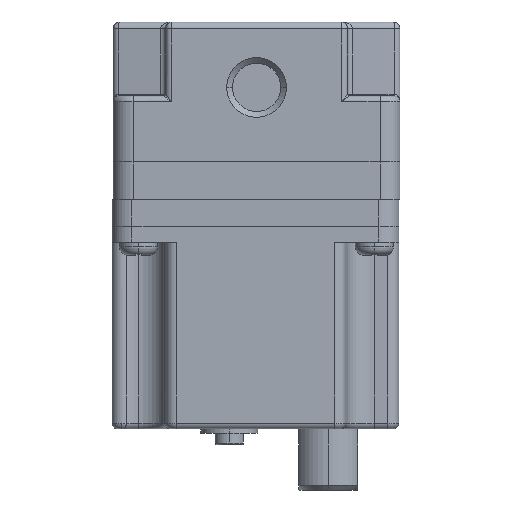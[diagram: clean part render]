
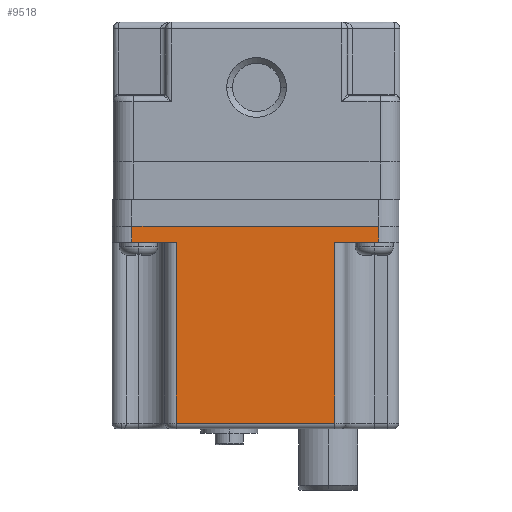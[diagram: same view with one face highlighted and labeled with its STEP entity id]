
A CAD part, front view. The second image highlights one B-rep face of the part: STEP entity #9518.
In plain terms, the highlighted planar face has unit normal (0, -1, 0) as drawn and (-1, 0, 0) by its records, which use the part's own axes.
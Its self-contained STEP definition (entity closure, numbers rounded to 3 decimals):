
#457 = LINE ( 'NONE', #7707, #15299 ) ;
#898 = CARTESIAN_POINT ( 'NONE',  ( -25.2, 13.9, 7.5 ) ) ;
#1065 = CARTESIAN_POINT ( 'NONE',  ( -25.2, -21.7, 40.3 ) ) ;
#1500 = VERTEX_POINT ( 'NONE', #13059 ) ;
#1590 = DIRECTION ( 'NONE',  ( 0., -1., 0. ) ) ;
#1735 = ORIENTED_EDGE ( 'NONE', *, *, #16056, .T. ) ;
#1825 = EDGE_CURVE ( 'NONE', #19584, #8675, #14709, .T. ) ;
#2126 = DIRECTION ( 'NONE',  ( 0., 0., -1. ) ) ;
#2132 = LINE ( 'NONE', #20192, #23224 ) ;
#2872 = VECTOR ( 'NONE', #14466, 1000. ) ;
#3025 = EDGE_CURVE ( 'NONE', #10313, #1500, #21834, .T. ) ;
#3029 = VECTOR ( 'NONE', #19617, 1000. ) ;
#3167 = LINE ( 'NONE', #1065, #3029 ) ;
#3413 = CARTESIAN_POINT ( 'NONE',  ( -25.2, 21.7, 7.5 ) ) ;
#3781 = CARTESIAN_POINT ( 'NONE',  ( -25.2, 21.7, 4.7 ) ) ;
#5024 = ORIENTED_EDGE ( 'NONE', *, *, #11008, .T. ) ;
#5410 = VERTEX_POINT ( 'NONE', #898 ) ;
#5618 = LINE ( 'NONE', #3413, #14063 ) ;
#6023 = VERTEX_POINT ( 'NONE', #21129 ) ;
#7024 = VECTOR ( 'NONE', #17479, 1000. ) ;
#7060 = LINE ( 'NONE', #15973, #11896 ) ;
#7310 = DIRECTION ( 'NONE',  ( 1., 0., 0. ) ) ;
#7483 = CARTESIAN_POINT ( 'NONE',  ( -25.2, 21.7, 7.5 ) ) ;
#7669 = PLANE ( 'NONE',  #10319 ) ;
#7707 = CARTESIAN_POINT ( 'NONE',  ( -25.2, -13.9, 40.3 ) ) ;
#8302 = VECTOR ( 'NONE', #1590, 1000. ) ;
#8397 = EDGE_CURVE ( 'NONE', #8675, #1500, #3167, .T. ) ;
#8675 = VERTEX_POINT ( 'NONE', #22842 ) ;
#9058 = VERTEX_POINT ( 'NONE', #10289 ) ;
#9106 = CARTESIAN_POINT ( 'NONE',  ( -25.2, 21.7, 7.5 ) ) ;
#9385 = EDGE_CURVE ( 'NONE', #9058, #6023, #7060, .T. ) ;
#9423 = DIRECTION ( 'NONE',  ( 0., 0., 1. ) ) ;
#9518 = ADVANCED_FACE ( 'NONE', ( #13136 ), #7669, .F. ) ;
#10289 = CARTESIAN_POINT ( 'NONE',  ( -25.2, -13.9, 39.3 ) ) ;
#10313 = VERTEX_POINT ( 'NONE', #23004 ) ;
#10319 = AXIS2_PLACEMENT_3D ( 'NONE', #18377, #7310, #2126 ) ;
#10970 = DIRECTION ( 'NONE',  ( 0., 0., -1. ) ) ;
#11008 = EDGE_CURVE ( 'NONE', #6023, #5410, #13953, .T. ) ;
#11896 = VECTOR ( 'NONE', #21415, 1000. ) ;
#12739 = ORIENTED_EDGE ( 'NONE', *, *, #9385, .T. ) ;
#13059 = CARTESIAN_POINT ( 'NONE',  ( -25.2, -21.7, 4.7 ) ) ;
#13136 = FACE_OUTER_BOUND ( 'NONE', #19952, .T. ) ;
#13627 = EDGE_CURVE ( 'NONE', #19584, #9058, #457, .T. ) ;
#13953 = LINE ( 'NONE', #16148, #7024 ) ;
#14063 = VECTOR ( 'NONE', #20102, 1000. ) ;
#14466 = DIRECTION ( 'NONE',  ( 0., -1., 0. ) ) ;
#14709 = LINE ( 'NONE', #9106, #2872 ) ;
#15299 = VECTOR ( 'NONE', #9423, 1000. ) ;
#15973 = CARTESIAN_POINT ( 'NONE',  ( -25.2, 15.9, 39.3 ) ) ;
#16056 = EDGE_CURVE ( 'NONE', #23981, #10313, #2132, .T. ) ;
#16148 = CARTESIAN_POINT ( 'NONE',  ( -25.2, 13.9, 40.3 ) ) ;
#16172 = ORIENTED_EDGE ( 'NONE', *, *, #13627, .T. ) ;
#16180 = ORIENTED_EDGE ( 'NONE', *, *, #18587, .F. ) ;
#16409 = ORIENTED_EDGE ( 'NONE', *, *, #3025, .T. ) ;
#17479 = DIRECTION ( 'NONE',  ( 0., 0., -1. ) ) ;
#18377 = CARTESIAN_POINT ( 'NONE',  ( -25.2, 21.7, 40.3 ) ) ;
#18587 = EDGE_CURVE ( 'NONE', #23981, #5410, #5618, .T. ) ;
#19228 = ORIENTED_EDGE ( 'NONE', *, *, #1825, .F. ) ;
#19584 = VERTEX_POINT ( 'NONE', #20943 ) ;
#19617 = DIRECTION ( 'NONE',  ( 0., 0., -1. ) ) ;
#19952 = EDGE_LOOP ( 'NONE', ( #19228, #16172, #12739, #5024, #16180, #1735, #16409, #21482 ) ) ;
#20102 = DIRECTION ( 'NONE',  ( 0., -1., 0. ) ) ;
#20192 = CARTESIAN_POINT ( 'NONE',  ( -25.2, 21.7, 40.3 ) ) ;
#20943 = CARTESIAN_POINT ( 'NONE',  ( -25.2, -13.9, 7.5 ) ) ;
#21129 = CARTESIAN_POINT ( 'NONE',  ( -25.2, 13.9, 39.3 ) ) ;
#21415 = DIRECTION ( 'NONE',  ( 0., 1., 0. ) ) ;
#21482 = ORIENTED_EDGE ( 'NONE', *, *, #8397, .F. ) ;
#21834 = LINE ( 'NONE', #3781, #8302 ) ;
#22842 = CARTESIAN_POINT ( 'NONE',  ( -25.2, -21.7, 7.5 ) ) ;
#23004 = CARTESIAN_POINT ( 'NONE',  ( -25.2, 21.7, 4.7 ) ) ;
#23224 = VECTOR ( 'NONE', #10970, 1000. ) ;
#23981 = VERTEX_POINT ( 'NONE', #7483 ) ;
